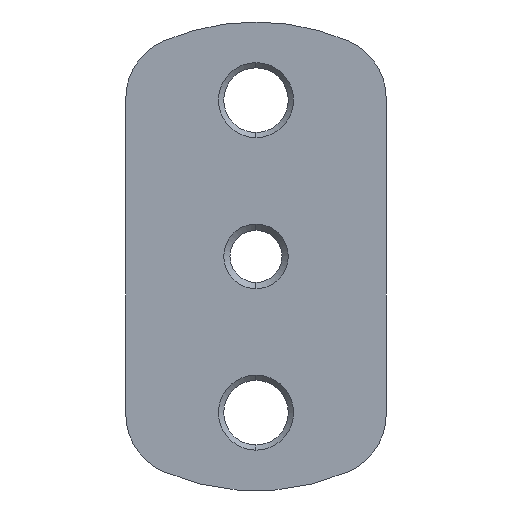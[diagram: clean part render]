
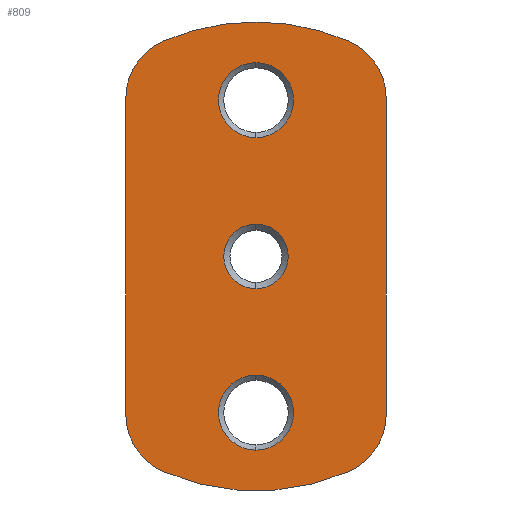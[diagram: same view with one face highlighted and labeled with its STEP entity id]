
A CAD part, left-side view. The second image highlights one B-rep face of the part: STEP entity #809.
In plain terms, the highlighted planar face has unit normal (-1, 0, 0).
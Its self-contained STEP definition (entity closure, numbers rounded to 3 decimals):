
#1 = ORIENTED_EDGE ( 'NONE', *, *, #647, .T. ) ;
#5 = EDGE_CURVE ( 'NONE', #527, #1003, #904, .T. ) ;
#18 = EDGE_CURVE ( 'NONE', #209, #271, #968, .T. ) ;
#19 = DIRECTION ( 'NONE',  ( 0., 0., -1. ) ) ;
#20 = AXIS2_PLACEMENT_3D ( 'NONE', #318, #533, #630 ) ;
#24 = CIRCLE ( 'NONE', #257, 6. ) ;
#29 = CARTESIAN_POINT ( 'NONE',  ( 0., -8.864, 20.681 ) ) ;
#33 = EDGE_CURVE ( 'NONE', #963, #85, #535, .T. ) ;
#35 = DIRECTION ( 'NONE',  ( 1., 0., 0. ) ) ;
#36 = DIRECTION ( 'NONE',  ( 0., 0., -1. ) ) ;
#40 = AXIS2_PLACEMENT_3D ( 'NONE', #787, #86, #874 ) ;
#45 = DIRECTION ( 'NONE',  ( -1., 0., 0. ) ) ;
#67 = DIRECTION ( 'NONE',  ( 0., 0., -1. ) ) ;
#85 = VERTEX_POINT ( 'NONE', #498 ) ;
#86 = DIRECTION ( 'NONE',  ( -1., 0., 0. ) ) ;
#87 = EDGE_CURVE ( 'NONE', #271, #209, #756, .T. ) ;
#95 = FACE_BOUND ( 'NONE', #518, .T. ) ;
#104 = DIRECTION ( 'NONE',  ( 0., 0., -1. ) ) ;
#111 = DIRECTION ( 'NONE',  ( -1., 0., 0. ) ) ;
#124 = ORIENTED_EDGE ( 'NONE', *, *, #147, .T. ) ;
#131 = CARTESIAN_POINT ( 'NONE',  ( 0., 0., 11.4 ) ) ;
#145 = CARTESIAN_POINT ( 'NONE',  ( 0., 0., -15. ) ) ;
#147 = EDGE_CURVE ( 'NONE', #967, #189, #252, .T. ) ;
#172 = DIRECTION ( 'NONE',  ( 0., 0., 1. ) ) ;
#178 = CARTESIAN_POINT ( 'NONE',  ( 0., 3.1, 0. ) ) ;
#185 = ORIENTED_EDGE ( 'NONE', *, *, #87, .F. ) ;
#189 = VERTEX_POINT ( 'NONE', #131 ) ;
#195 = CARTESIAN_POINT ( 'NONE',  ( 0., 0., 0. ) ) ;
#208 = AXIS2_PLACEMENT_3D ( 'NONE', #402, #950, #19 ) ;
#209 = VERTEX_POINT ( 'NONE', #585 ) ;
#224 = DIRECTION ( 'NONE',  ( 0., 0., -1. ) ) ;
#239 = CARTESIAN_POINT ( 'NONE',  ( 0., 8.864, 20.681 ) ) ;
#252 = CIRCLE ( 'NONE', #824, 3.6 ) ;
#257 = AXIS2_PLACEMENT_3D ( 'NONE', #378, #608, #224 ) ;
#271 = VERTEX_POINT ( 'NONE', #989 ) ;
#301 = VERTEX_POINT ( 'NONE', #594 ) ;
#318 = CARTESIAN_POINT ( 'NONE',  ( 0., -6.5, -15.166 ) ) ;
#323 = ORIENTED_EDGE ( 'NONE', *, *, #5, .T. ) ;
#330 = FACE_BOUND ( 'NONE', #396, .T. ) ;
#337 = LINE ( 'NONE', #863, #471 ) ;
#342 = DIRECTION ( 'NONE',  ( 1., 0., 0. ) ) ;
#345 = DIRECTION ( 'NONE',  ( 0., 0., 1. ) ) ;
#351 = CARTESIAN_POINT ( 'NONE',  ( 0., 0., 18.6 ) ) ;
#357 = DIRECTION ( 'NONE',  ( 1., 0., 0. ) ) ;
#378 = CARTESIAN_POINT ( 'NONE',  ( 0., -6.5, 15.166 ) ) ;
#384 = CARTESIAN_POINT ( 'NONE',  ( 0., 0., 0. ) ) ;
#388 = AXIS2_PLACEMENT_3D ( 'NONE', #463, #842, #922 ) ;
#396 = EDGE_LOOP ( 'NONE', ( #574, #543 ) ) ;
#398 = FACE_BOUND ( 'NONE', #949, .T. ) ;
#399 = ORIENTED_EDGE ( 'NONE', *, *, #33, .T. ) ;
#402 = CARTESIAN_POINT ( 'NONE',  ( 0., 6.5, -15.166 ) ) ;
#424 = VERTEX_POINT ( 'NONE', #239 ) ;
#428 = CARTESIAN_POINT ( 'NONE',  ( 0., 12.5, -15.166 ) ) ;
#445 = CARTESIAN_POINT ( 'NONE',  ( 0., 12.5, 15.166 ) ) ;
#457 = AXIS2_PLACEMENT_3D ( 'NONE', #992, #605, #681 ) ;
#460 = DIRECTION ( 'NONE',  ( 1., 0., 0. ) ) ;
#463 = CARTESIAN_POINT ( 'NONE',  ( 0., 6.5, 15.166 ) ) ;
#471 = VECTOR ( 'NONE', #172, 1000. ) ;
#498 = CARTESIAN_POINT ( 'NONE',  ( 0., 8.864, -20.681 ) ) ;
#500 = PLANE ( 'NONE',  #810 ) ;
#511 = DIRECTION ( 'NONE',  ( 0., 0., 1. ) ) ;
#518 = EDGE_LOOP ( 'NONE', ( #124, #1011 ) ) ;
#527 = VERTEX_POINT ( 'NONE', #635 ) ;
#533 = DIRECTION ( 'NONE',  ( -1., 0., 0. ) ) ;
#535 = CIRCLE ( 'NONE', #208, 6. ) ;
#536 = CARTESIAN_POINT ( 'NONE',  ( 0., 0., 15. ) ) ;
#539 = DIRECTION ( 'NONE',  ( -1., 0., 0. ) ) ;
#543 = ORIENTED_EDGE ( 'NONE', *, *, #581, .T. ) ;
#559 = VERTEX_POINT ( 'NONE', #907 ) ;
#561 = CIRCLE ( 'NONE', #388, 6. ) ;
#572 = CARTESIAN_POINT ( 'NONE',  ( 0., -12.5, -15.166 ) ) ;
#574 = ORIENTED_EDGE ( 'NONE', *, *, #654, .T. ) ;
#581 = EDGE_CURVE ( 'NONE', #301, #991, #726, .T. ) ;
#584 = CARTESIAN_POINT ( 'NONE',  ( 0., 12.5, 0. ) ) ;
#585 = CARTESIAN_POINT ( 'NONE',  ( 0., 0., 3.1 ) ) ;
#587 = LINE ( 'NONE', #584, #972 ) ;
#594 = CARTESIAN_POINT ( 'NONE',  ( 0., 0., -18.6 ) ) ;
#596 = AXIS2_PLACEMENT_3D ( 'NONE', #195, #45, #511 ) ;
#600 = DIRECTION ( 'NONE',  ( 0., 0., -1. ) ) ;
#602 = ORIENTED_EDGE ( 'NONE', *, *, #621, .T. ) ;
#605 = DIRECTION ( 'NONE',  ( -1., 0., 0. ) ) ;
#608 = DIRECTION ( 'NONE',  ( -1., 0., 0. ) ) ;
#614 = AXIS2_PLACEMENT_3D ( 'NONE', #757, #35, #600 ) ;
#617 = VERTEX_POINT ( 'NONE', #889 ) ;
#621 = EDGE_CURVE ( 'NONE', #559, #424, #908, .T. ) ;
#622 = ORIENTED_EDGE ( 'NONE', *, *, #685, .T. ) ;
#630 = DIRECTION ( 'NONE',  ( 0., 0., -1. ) ) ;
#635 = CARTESIAN_POINT ( 'NONE',  ( 0., -8.864, -20.681 ) ) ;
#647 = EDGE_CURVE ( 'NONE', #424, #924, #561, .T. ) ;
#654 = EDGE_CURVE ( 'NONE', #991, #301, #690, .T. ) ;
#663 = EDGE_CURVE ( 'NONE', #617, #740, #24, .T. ) ;
#664 = DIRECTION ( 'NONE',  ( 0., 0., -1. ) ) ;
#672 = ORIENTED_EDGE ( 'NONE', *, *, #868, .T. ) ;
#674 = EDGE_CURVE ( 'NONE', #189, #967, #971, .T. ) ;
#681 = DIRECTION ( 'NONE',  ( 0., 0., 1. ) ) ;
#685 = EDGE_CURVE ( 'NONE', #85, #527, #955, .T. ) ;
#687 = ORIENTED_EDGE ( 'NONE', *, *, #946, .T. ) ;
#690 = CIRCLE ( 'NONE', #774, 3.6 ) ;
#711 = FACE_OUTER_BOUND ( 'NONE', #891, .T. ) ;
#718 = EDGE_CURVE ( 'NONE', #1003, #617, #337, .T. ) ;
#726 = CIRCLE ( 'NONE', #614, 3.6 ) ;
#740 = VERTEX_POINT ( 'NONE', #29 ) ;
#756 = CIRCLE ( 'NONE', #40, 3.1 ) ;
#757 = CARTESIAN_POINT ( 'NONE',  ( 0., 0., -15. ) ) ;
#774 = AXIS2_PLACEMENT_3D ( 'NONE', #145, #460, #67 ) ;
#787 = CARTESIAN_POINT ( 'NONE',  ( 0., 0., 0. ) ) ;
#789 = AXIS2_PLACEMENT_3D ( 'NONE', #384, #539, #852 ) ;
#809 = ADVANCED_FACE ( 'NONE', ( #330, #95, #398, #711 ), #500, .F. ) ;
#810 = AXIS2_PLACEMENT_3D ( 'NONE', #178, #342, #104 ) ;
#824 = AXIS2_PLACEMENT_3D ( 'NONE', #826, #357, #664 ) ;
#826 = CARTESIAN_POINT ( 'NONE',  ( 0., 0., 15. ) ) ;
#828 = AXIS2_PLACEMENT_3D ( 'NONE', #536, #917, #846 ) ;
#842 = DIRECTION ( 'NONE',  ( -1., 0., 0. ) ) ;
#846 = DIRECTION ( 'NONE',  ( 0., 0., -1. ) ) ;
#852 = DIRECTION ( 'NONE',  ( 0., 0., 1. ) ) ;
#863 = CARTESIAN_POINT ( 'NONE',  ( 0., -12.5, 0. ) ) ;
#868 = EDGE_CURVE ( 'NONE', #740, #559, #941, .T. ) ;
#874 = DIRECTION ( 'NONE',  ( 0., 0., 1. ) ) ;
#884 = ORIENTED_EDGE ( 'NONE', *, *, #718, .T. ) ;
#889 = CARTESIAN_POINT ( 'NONE',  ( 0., -12.5, 15.166 ) ) ;
#891 = EDGE_LOOP ( 'NONE', ( #622, #323, #884, #983, #672, #602, #1, #687, #399 ) ) ;
#904 = CIRCLE ( 'NONE', #20, 6. ) ;
#907 = CARTESIAN_POINT ( 'NONE',  ( 0., 0., 22.5 ) ) ;
#908 = CIRCLE ( 'NONE', #596, 22.5 ) ;
#909 = CARTESIAN_POINT ( 'NONE',  ( 0., 0., 0. ) ) ;
#917 = DIRECTION ( 'NONE',  ( 1., 0., 0. ) ) ;
#922 = DIRECTION ( 'NONE',  ( 0., 0., -1. ) ) ;
#924 = VERTEX_POINT ( 'NONE', #445 ) ;
#941 = CIRCLE ( 'NONE', #1006, 22.5 ) ;
#946 = EDGE_CURVE ( 'NONE', #924, #963, #587, .T. ) ;
#949 = EDGE_LOOP ( 'NONE', ( #997, #185 ) ) ;
#950 = DIRECTION ( 'NONE',  ( -1., 0., 0. ) ) ;
#955 = CIRCLE ( 'NONE', #457, 22.5 ) ;
#963 = VERTEX_POINT ( 'NONE', #428 ) ;
#966 = CARTESIAN_POINT ( 'NONE',  ( 0., 0., -11.4 ) ) ;
#967 = VERTEX_POINT ( 'NONE', #351 ) ;
#968 = CIRCLE ( 'NONE', #789, 3.1 ) ;
#971 = CIRCLE ( 'NONE', #828, 3.6 ) ;
#972 = VECTOR ( 'NONE', #36, 1000. ) ;
#983 = ORIENTED_EDGE ( 'NONE', *, *, #663, .T. ) ;
#989 = CARTESIAN_POINT ( 'NONE',  ( 0., 0., -3.1 ) ) ;
#991 = VERTEX_POINT ( 'NONE', #966 ) ;
#992 = CARTESIAN_POINT ( 'NONE',  ( 0., 0., 0. ) ) ;
#997 = ORIENTED_EDGE ( 'NONE', *, *, #18, .F. ) ;
#1003 = VERTEX_POINT ( 'NONE', #572 ) ;
#1006 = AXIS2_PLACEMENT_3D ( 'NONE', #909, #111, #345 ) ;
#1011 = ORIENTED_EDGE ( 'NONE', *, *, #674, .T. ) ;
